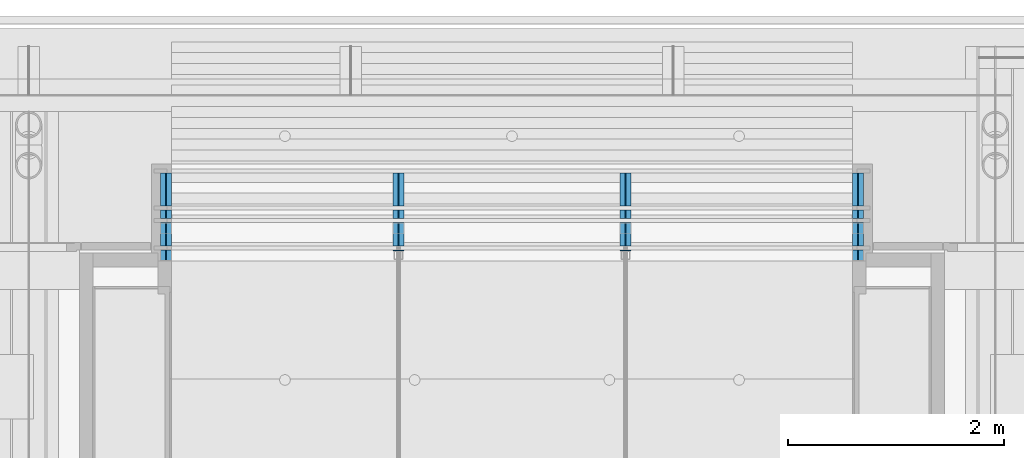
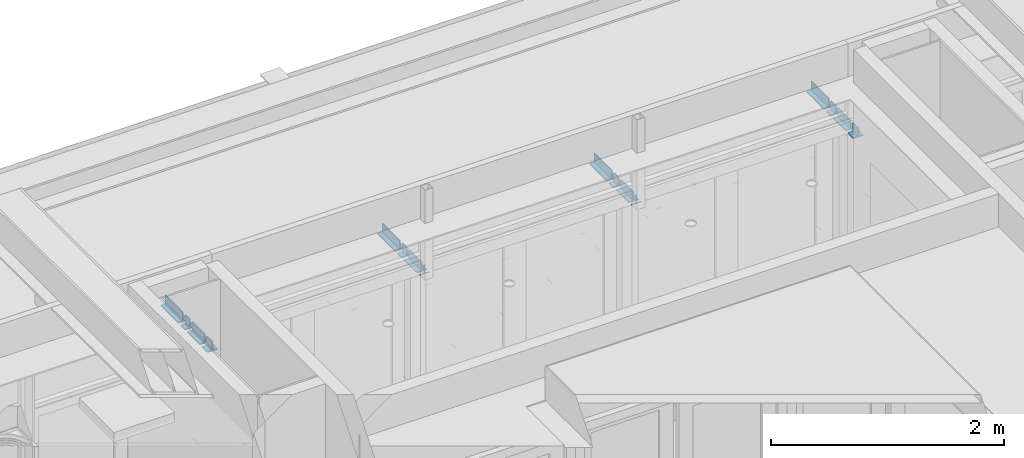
# One storey, part 35 of 347: 4 beams.
"""IFC2X3 building model written with IfcOpenShell, lengths in millimetres."""

from ifc_helpers import new_model, entity, si_unit, converted_unit, derived_unit, money_unit, direction, frame, origin_with_axes, place, context, subcontext, project, spatial, faceted_brep, material, type_object, element, save


model = new_model("IFC2X3")

# Units and contexts
model_context = context("Model", 3, precision=0.01, world=origin_with_axes(), true_north=direction((0.0, 1.0)))
plan_context = context("Plan", 3, precision=0.01, world=origin_with_axes(), true_north=direction((0.0, 1.0)))
body_context = subcontext(model_context, "Body", "Model", "MODEL_VIEW")
ifc_project = project(units=[si_unit("LENGTHUNIT", "METRE", prefix="MILLI"), si_unit("AREAUNIT", "SQUARE_METRE"), si_unit("VOLUMEUNIT", "CUBIC_METRE"), converted_unit("PLANEANGLEUNIT", "DEGREE", entity("IfcPlaneAngleMeasure", 0.0174532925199), si_unit("PLANEANGLEUNIT", "RADIAN"), dimensions=[0, 0, 0, 0, 0, 0, 0]), money_unit("EUR"), converted_unit("TIMEUNIT", "Year", entity("IfcTimeMeasure", 31556926.0), si_unit("TIMEUNIT", "SECOND"), dimensions=[0, 0, 1, 0, 0, 0, 0]), si_unit("MASSUNIT", "GRAM", prefix="KILO"), si_unit("THERMODYNAMICTEMPERATUREUNIT", "DEGREE_CELSIUS"), si_unit("LUMINOUSINTENSITYUNIT", "LUMEN"), si_unit("ENERGYUNIT", "JOULE", prefix="MEGA"), derived_unit("THERMALCONDUCTANCEUNIT", [(si_unit("POWERUNIT", "WATT"), 1), (si_unit("LENGTHUNIT", "METRE"), -1), (si_unit("THERMODYNAMICTEMPERATUREUNIT", "KELVIN"), -1)]), derived_unit("SPECIFICHEATCAPACITYUNIT", [(si_unit("ENERGYUNIT", "JOULE"), 1), (si_unit("MASSUNIT", "GRAM", prefix="KILO"), -1), (si_unit("THERMODYNAMICTEMPERATUREUNIT", "KELVIN"), -1)]), derived_unit("MASSDENSITYUNIT", [(si_unit("MASSUNIT", "GRAM", prefix="KILO"), 1), (si_unit("VOLUMEUNIT", "CUBIC_METRE"), -1)])], contexts=[model_context, plan_context])

# Site, building, storey
site_placement = place(None, origin_with_axes())
site = spatial("IfcSite", under=ifc_project, at=site_placement, Name="Site", CompositionType="ELEMENT")
building_placement = place(site_placement, origin_with_axes())
building = spatial("IfcBuilding", under=site, at=building_placement, Name="Naam gebouw", CompositionType="ELEMENT")
storey_placement = place(building_placement, origin_with_axes())
storey = spatial("IfcBuildingStorey", under=building, at=storey_placement, Name="begane grond", CompositionType="ELEMENT", Elevation=0.0)

# Beams
ifc_material = material(Name="Metaal - Staal AFW")
beam_type = type_object("IfcBeamType", Name="Profiel T algemeen 100 x 100", PredefinedType="BEAM")
beam_1_placement = place(storey_placement, frame((43275.0, 45058.0, 2620.0), z_axis=(0.0, 0.0, 1.0), x_axis=(1.0, 0.0, 0.0)))
element("IfcBeam", 1, at=beam_1_placement, inside=storey, type_object=beam_type, material=ifc_material, Name="28_Balk-x", ObjectType="BEAM", context=body_context, shape_type="Brep", body=[
    faceted_brep([(50.0, 506.000000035, 0.0), (50.0, 807.999995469, 0.0), (50.0, 807.999995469, 10.0), (50.0, 506.000000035, 10.0), (-50.0, 506.000000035, 0.0), (-50.0, 807.999995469, 0.0), (5.0, 807.999995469, 100.0), (5.0, 807.999995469, 10.0), (-50.0, 807.999995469, 10.0), (-5.00000000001, 807.999995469, 10.0), (-5.00000000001, 807.999995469, 100.0), (5.0, 506.000000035, 10.0), (-50.0, 506.000000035, 10.0), (5.0, 506.000000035, 100.0), (-5.0, 506.000000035, 100.0), (-5.0, 506.000000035, 10.0)], [[[0, 1, 2, 3]], [[4, 5, 1, 0]], [[6, 7, 2, 1, 5, 8, 9, 10]], [[3, 2, 7, 11]], [[12, 4, 0, 3, 11, 13, 14, 15]], [[12, 8, 5, 4]], [[11, 7, 6, 13]], [[15, 9, 8, 12]], [[14, 10, 9, 15]], [[13, 6, 10, 14]]]),
    faceted_brep([(50.0, 133.000361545, 0.0), (50.0, 350.000000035, 0.0), (50.0, 350.000000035, 10.0), (50.0, 133.000361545, 10.0), (-50.0, 133.000361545, 0.0), (-50.0, 350.000000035, 0.0), (5.0, 350.000000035, 100.0), (5.0, 350.000000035, 10.0), (-50.0, 350.000000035, 10.0), (-5.00000000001, 350.000000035, 10.0), (-5.00000000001, 350.000000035, 100.0), (5.0, 133.000361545, 10.0), (-50.0, 133.000361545, 10.0), (5.0, 133.000361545, 100.0), (-5.0, 133.000361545, 100.0), (-5.0, 133.000361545, 10.0)], [[[0, 1, 2, 3]], [[4, 5, 1, 0]], [[6, 7, 2, 1, 5, 8, 9, 10]], [[3, 2, 7, 11]], [[12, 4, 0, 3, 11, 13, 14, 15]], [[12, 8, 5, 4]], [[11, 7, 6, 13]], [[15, 9, 8, 12]], [[14, 10, 9, 15]], [[13, 6, 10, 14]]]),
    faceted_brep([(5.0, 468.000000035, 10.0), (5.0, 388.000000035, 10.0), (50.0, 388.000000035, 10.0), (50.0, 468.000000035, 10.0), (5.0, 468.000000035, 100.0), (5.0, 388.000000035, 100.0), (-50.0, 388.000000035, 0.0), (50.0, 388.000000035, 0.0), (-5.00000000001, 388.000000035, 100.0), (-5.00000000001, 388.000000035, 10.0), (-50.0, 388.000000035, 10.0), (50.0, 468.000000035, 0.0), (-5.0, 468.000000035, 10.0), (-5.0, 468.000000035, 100.0), (-50.0, 468.000000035, 0.0), (-50.0, 468.000000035, 10.0)], [[[0, 1, 2, 3]], [[4, 5, 1, 0]], [[6, 7, 2, 1, 5, 8, 9, 10]], [[3, 2, 7, 11]], [[12, 13, 4, 0, 3, 11, 14, 15]], [[13, 8, 5, 4]], [[11, 7, 6, 14]], [[12, 9, 8, 13]], [[15, 10, 9, 12]], [[14, 6, 10, 15]]]),
    faceted_brep([(50.0, 0.0, 0.0), (50.0, 95.0003615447, 0.0), (50.0, 95.0003615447, 10.0), (50.0, 0.0, 10.0), (-50.0, 0.0, 0.0), (-50.0, 95.0003615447, 0.0), (5.0, 95.0003615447, 100.0), (5.0, 95.0003615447, 10.0), (-50.0, 95.0003615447, 10.0), (-5.0, 95.0003615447, 10.0), (-5.0, 95.0003615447, 100.0), (5.0, 0.0, 10.0), (5.0, 0.0, 100.0), (-5.0, 0.0, 100.0), (-5.0, 0.0, 10.0), (-50.0, 0.0, 10.0)], [[[0, 1, 2, 3]], [[4, 5, 1, 0]], [[6, 7, 2, 1, 5, 8, 9, 10]], [[3, 2, 7, 11]], [[3, 11, 12, 13, 14, 15, 4, 0]], [[15, 8, 5, 4]], [[11, 7, 6, 12]], [[14, 9, 8, 15]], [[13, 10, 9, 14]], [[12, 6, 10, 13]]]),
])
beam_2_placement = place(storey_placement, frame((41125.0, 45148.0, 2620.0), z_axis=(0.0, 0.0, 1.0), x_axis=(1.0, 0.0, 0.0)))
element("IfcBeam", 2, at=beam_2_placement, inside=storey, type_object=beam_type, material=ifc_material, Name="28_Balk-x", ObjectType="BEAM", context=body_context, shape_type="Brep", body=[
    faceted_brep([(50.0, 416.000000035, 0.0), (50.0, 717.999995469, 0.0), (50.0, 717.999995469, 10.0), (50.0, 416.000000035, 10.0), (-50.0, 416.000000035, 0.0), (-50.0, 717.999995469, 0.0), (5.0, 717.999995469, 100.0), (5.0, 717.999995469, 10.0), (-50.0, 717.999995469, 10.0), (-5.0, 717.999995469, 10.0), (-5.0, 717.999995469, 100.0), (5.00000000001, 416.000000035, 10.0), (-50.0, 416.000000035, 10.0), (5.00000000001, 416.000000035, 100.0), (-5.0, 416.000000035, 100.0), (-5.0, 416.000000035, 10.0)], [[[0, 1, 2, 3]], [[4, 5, 1, 0]], [[6, 7, 2, 1, 5, 8, 9, 10]], [[3, 2, 7, 11]], [[12, 4, 0, 3, 11, 13, 14, 15]], [[12, 8, 5, 4]], [[11, 7, 6, 13]], [[15, 9, 8, 12]], [[14, 10, 9, 15]], [[13, 6, 10, 14]]]),
    faceted_brep([(50.0, 43.0003615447, 0.0), (50.0, 260.000000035, 0.0), (50.0, 260.000000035, 10.0), (50.0, 43.0003615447, 10.0), (-50.0, 43.0003615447, 0.0), (-50.0, 260.000000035, 0.0), (5.0, 260.000000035, 100.0), (5.0, 260.000000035, 10.0), (-50.0, 260.000000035, 10.0), (-5.0, 260.000000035, 10.0), (-5.0, 260.000000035, 100.0), (5.00000000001, 43.0003615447, 10.0), (-50.0, 43.0003615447, 10.0), (5.00000000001, 43.0003615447, 100.0), (-5.0, 43.0003615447, 100.0), (-5.0, 43.0003615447, 10.0)], [[[0, 1, 2, 3]], [[4, 5, 1, 0]], [[6, 7, 2, 1, 5, 8, 9, 10]], [[3, 2, 7, 11]], [[12, 4, 0, 3, 11, 13, 14, 15]], [[12, 8, 5, 4]], [[11, 7, 6, 13]], [[15, 9, 8, 12]], [[14, 10, 9, 15]], [[13, 6, 10, 14]]]),
    faceted_brep([(5.0, 378.000000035, 10.0), (5.0, 298.000000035, 10.0), (50.0, 298.000000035, 10.0), (50.0, 378.000000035, 10.0), (5.0, 378.000000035, 100.0), (5.0, 298.000000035, 100.0), (-50.0, 298.000000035, 0.0), (50.0, 298.000000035, 0.0), (-5.0, 298.000000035, 100.0), (-5.0, 298.000000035, 10.0), (-50.0, 298.000000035, 10.0), (50.0, 378.000000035, 0.0), (-5.0, 378.000000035, 10.0), (-5.0, 378.000000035, 100.0), (-50.0, 378.000000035, 0.0), (-50.0, 378.000000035, 10.0)], [[[0, 1, 2, 3]], [[4, 5, 1, 0]], [[6, 7, 2, 1, 5, 8, 9, 10]], [[3, 2, 7, 11]], [[12, 13, 4, 0, 3, 11, 14, 15]], [[13, 8, 5, 4]], [[11, 7, 6, 14]], [[12, 9, 8, 13]], [[15, 10, 9, 12]], [[14, 6, 10, 15]]]),
    faceted_brep([(50.0, 0.0, 0.0), (50.0, 5.00036154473, 0.0), (50.0, 5.00036154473, 10.0), (50.0, 0.0, 10.0), (-50.0, 0.0, 0.0), (-50.0, 5.00036154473, 0.0), (5.0, 5.00036154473, 100.0), (5.0, 5.00036154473, 10.0), (-50.0, 5.00036154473, 10.0), (-5.0, 5.00036154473, 10.0), (-5.0, 5.00036154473, 100.0), (5.0, 0.0, 10.0), (5.0, 0.0, 100.0), (-5.0, 0.0, 100.0), (-5.0, 0.0, 10.0), (-50.0, 0.0, 10.0)], [[[0, 1, 2, 3]], [[4, 5, 1, 0]], [[6, 7, 2, 1, 5, 8, 9, 10]], [[3, 2, 7, 11]], [[3, 11, 12, 13, 14, 15, 4, 0]], [[15, 8, 5, 4]], [[11, 7, 6, 12]], [[14, 9, 8, 15]], [[13, 10, 9, 14]], [[12, 6, 10, 13]]]),
])
beam_3_placement = place(storey_placement, frame((36875.0, 45058.0, 2620.0), z_axis=(0.0, 0.0, 1.0), x_axis=(1.0, 0.0, 0.0)))
element("IfcBeam", 3, at=beam_3_placement, inside=storey, type_object=beam_type, material=ifc_material, Name="28_Balk-x", ObjectType="BEAM", context=body_context, shape_type="Brep", body=[
    faceted_brep([(50.0, 506.000000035, 0.0), (50.0, 807.999995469, 0.0), (50.0, 807.999995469, 10.0), (50.0, 506.000000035, 10.0), (-50.0, 506.000000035, 0.0), (-50.0, 807.999995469, 0.0), (5.0, 807.999995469, 100.0), (5.0, 807.999995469, 10.0), (-50.0, 807.999995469, 10.0), (-5.0, 807.999995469, 10.0), (-5.0, 807.999995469, 100.0), (5.0, 506.000000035, 10.0), (-50.0, 506.000000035, 10.0), (5.0, 506.000000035, 100.0), (-5.0, 506.000000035, 100.0), (-5.0, 506.000000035, 10.0)], [[[0, 1, 2, 3]], [[4, 5, 1, 0]], [[6, 7, 2, 1, 5, 8, 9, 10]], [[3, 2, 7, 11]], [[12, 4, 0, 3, 11, 13, 14, 15]], [[12, 8, 5, 4]], [[11, 7, 6, 13]], [[15, 9, 8, 12]], [[14, 10, 9, 15]], [[13, 6, 10, 14]]]),
    faceted_brep([(50.0, 133.000361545, 0.0), (50.0, 350.000000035, 0.0), (50.0, 350.000000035, 10.0), (50.0, 133.000361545, 10.0), (-50.0, 133.000361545, 0.0), (-50.0, 350.000000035, 0.0), (5.0, 350.000000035, 100.0), (5.0, 350.000000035, 10.0), (-50.0, 350.000000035, 10.0), (-5.0, 350.000000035, 10.0), (-5.0, 350.000000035, 100.0), (5.0, 133.000361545, 10.0), (-50.0, 133.000361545, 10.0), (5.0, 133.000361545, 100.0), (-5.0, 133.000361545, 100.0), (-5.0, 133.000361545, 10.0)], [[[0, 1, 2, 3]], [[4, 5, 1, 0]], [[6, 7, 2, 1, 5, 8, 9, 10]], [[3, 2, 7, 11]], [[12, 4, 0, 3, 11, 13, 14, 15]], [[12, 8, 5, 4]], [[11, 7, 6, 13]], [[15, 9, 8, 12]], [[14, 10, 9, 15]], [[13, 6, 10, 14]]]),
    faceted_brep([(5.0, 468.000000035, 10.0), (5.0, 388.000000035, 10.0), (50.0, 388.000000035, 10.0), (50.0, 468.000000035, 10.0), (5.0, 468.000000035, 100.0), (5.0, 388.000000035, 100.0), (-50.0, 388.000000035, 0.0), (50.0, 388.000000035, 0.0), (-5.0, 388.000000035, 100.0), (-5.0, 388.000000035, 10.0), (-50.0, 388.000000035, 10.0), (50.0, 468.000000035, 0.0), (-5.0, 468.000000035, 10.0), (-5.0, 468.000000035, 100.0), (-50.0, 468.000000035, 0.0), (-50.0, 468.000000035, 10.0)], [[[0, 1, 2, 3]], [[4, 5, 1, 0]], [[6, 7, 2, 1, 5, 8, 9, 10]], [[3, 2, 7, 11]], [[12, 13, 4, 0, 3, 11, 14, 15]], [[13, 8, 5, 4]], [[11, 7, 6, 14]], [[12, 9, 8, 13]], [[15, 10, 9, 12]], [[14, 6, 10, 15]]]),
    faceted_brep([(50.0, 0.0, 0.0), (50.0, 95.0003615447, 0.0), (50.0, 95.0003615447, 10.0), (50.0, 0.0, 10.0), (-50.0, 0.0, 0.0), (-50.0, 95.0003615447, 0.0), (5.0, 95.0003615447, 100.0), (5.0, 95.0003615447, 10.0), (-50.0, 95.0003615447, 10.0), (-5.0, 95.0003615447, 10.0), (-5.0, 95.0003615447, 100.0), (5.0, 0.0, 10.0), (5.0, 0.0, 100.0), (-5.0, 0.0, 100.0), (-5.0, 0.0, 10.0), (-50.0, 0.0, 10.0)], [[[0, 1, 2, 3]], [[4, 5, 1, 0]], [[6, 7, 2, 1, 5, 8, 9, 10]], [[3, 2, 7, 11]], [[3, 11, 12, 13, 14, 15, 4, 0]], [[15, 8, 5, 4]], [[11, 7, 6, 12]], [[14, 9, 8, 15]], [[13, 10, 9, 14]], [[12, 6, 10, 13]]]),
])
beam_4_placement = place(storey_placement, frame((39025.0, 45148.0, 2620.0), z_axis=(0.0, 0.0, 1.0), x_axis=(1.0, 0.0, 0.0)))
element("IfcBeam", 4, at=beam_4_placement, inside=storey, type_object=beam_type, material=ifc_material, Name="28_Balk-x", ObjectType="BEAM", context=body_context, shape_type="Brep", body=[
    faceted_brep([(50.0, 416.000000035, 0.0), (50.0, 717.999995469, 0.0), (50.0, 717.999995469, 10.0), (50.0, 416.000000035, 10.0), (-50.0, 416.000000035, 0.0), (-50.0, 717.999995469, 0.0), (5.0, 717.999995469, 100.0), (5.0, 717.999995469, 10.0), (-50.0, 717.999995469, 10.0), (-5.0, 717.999995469, 10.0), (-5.0, 717.999995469, 100.0), (5.00000000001, 416.000000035, 10.0), (-50.0, 416.000000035, 10.0), (5.00000000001, 416.000000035, 100.0), (-5.0, 416.000000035, 100.0), (-5.0, 416.000000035, 10.0)], [[[0, 1, 2, 3]], [[4, 5, 1, 0]], [[6, 7, 2, 1, 5, 8, 9, 10]], [[3, 2, 7, 11]], [[12, 4, 0, 3, 11, 13, 14, 15]], [[12, 8, 5, 4]], [[11, 7, 6, 13]], [[15, 9, 8, 12]], [[14, 10, 9, 15]], [[13, 6, 10, 14]]]),
    faceted_brep([(50.0, 43.0003615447, 0.0), (50.0, 260.000000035, 0.0), (50.0, 260.000000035, 10.0), (50.0, 43.0003615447, 10.0), (-50.0, 43.0003615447, 0.0), (-50.0, 260.000000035, 0.0), (5.0, 260.000000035, 100.0), (5.0, 260.000000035, 10.0), (-50.0, 260.000000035, 10.0), (-5.0, 260.000000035, 10.0), (-5.0, 260.000000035, 100.0), (5.00000000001, 43.0003615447, 10.0), (-50.0, 43.0003615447, 10.0), (5.00000000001, 43.0003615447, 100.0), (-5.0, 43.0003615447, 100.0), (-5.0, 43.0003615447, 10.0)], [[[0, 1, 2, 3]], [[4, 5, 1, 0]], [[6, 7, 2, 1, 5, 8, 9, 10]], [[3, 2, 7, 11]], [[12, 4, 0, 3, 11, 13, 14, 15]], [[12, 8, 5, 4]], [[11, 7, 6, 13]], [[15, 9, 8, 12]], [[14, 10, 9, 15]], [[13, 6, 10, 14]]]),
    faceted_brep([(5.0, 378.000000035, 10.0), (5.0, 298.000000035, 10.0), (50.0, 298.000000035, 10.0), (50.0, 378.000000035, 10.0), (5.0, 378.000000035, 100.0), (5.0, 298.000000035, 100.0), (-50.0, 298.000000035, 0.0), (50.0, 298.000000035, 0.0), (-5.0, 298.000000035, 100.0), (-5.0, 298.000000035, 10.0), (-50.0, 298.000000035, 10.0), (50.0, 378.000000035, 0.0), (-5.0, 378.000000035, 10.0), (-5.0, 378.000000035, 100.0), (-50.0, 378.000000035, 0.0), (-50.0, 378.000000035, 10.0)], [[[0, 1, 2, 3]], [[4, 5, 1, 0]], [[6, 7, 2, 1, 5, 8, 9, 10]], [[3, 2, 7, 11]], [[12, 13, 4, 0, 3, 11, 14, 15]], [[13, 8, 5, 4]], [[11, 7, 6, 14]], [[12, 9, 8, 13]], [[15, 10, 9, 12]], [[14, 6, 10, 15]]]),
    faceted_brep([(50.0, 0.0, 0.0), (50.0, 5.00036154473, 0.0), (50.0, 5.00036154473, 10.0), (50.0, 0.0, 10.0), (-50.0, 0.0, 0.0), (-50.0, 5.00036154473, 0.0), (5.0, 5.00036154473, 100.0), (5.0, 5.00036154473, 10.0), (-50.0, 5.00036154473, 10.0), (-5.0, 5.00036154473, 10.0), (-5.0, 5.00036154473, 100.0), (5.0, 0.0, 10.0), (5.0, 0.0, 100.0), (-5.0, 0.0, 100.0), (-5.0, 0.0, 10.0), (-50.0, 0.0, 10.0)], [[[0, 1, 2, 3]], [[4, 5, 1, 0]], [[6, 7, 2, 1, 5, 8, 9, 10]], [[3, 2, 7, 11]], [[3, 11, 12, 13, 14, 15, 4, 0]], [[15, 8, 5, 4]], [[11, 7, 6, 12]], [[14, 9, 8, 15]], [[13, 10, 9, 14]], [[12, 6, 10, 13]]]),
])

save(model, "model.ifc")
